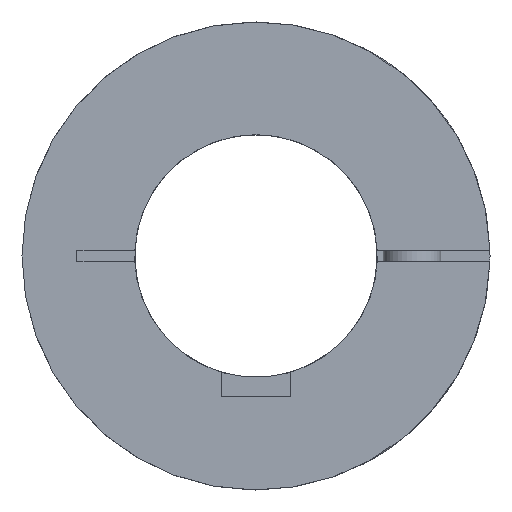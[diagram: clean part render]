
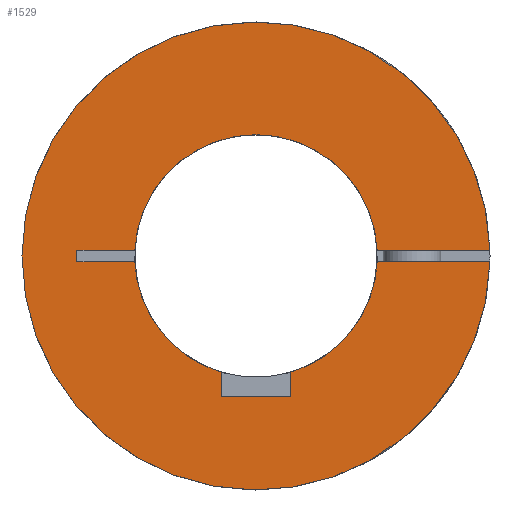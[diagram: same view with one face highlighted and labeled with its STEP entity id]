
A CAD part, left-side view. The second image highlights one B-rep face of the part: STEP entity #1529.
In plain terms, the highlighted planar face has unit normal (-1, 0, 0).
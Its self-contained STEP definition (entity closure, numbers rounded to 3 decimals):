
#41=PLANE('',#1742);
#139=LINE('',#2712,#246);
#142=LINE('',#2718,#249);
#143=LINE('',#2720,#250);
#155=LINE('',#2742,#262);
#159=LINE('',#2748,#266);
#170=LINE('',#2769,#277);
#171=LINE('',#2772,#278);
#194=LINE('',#2819,#301);
#246=VECTOR('',#2079,1.);
#249=VECTOR('',#2084,1.);
#250=VECTOR('',#2087,1.);
#262=VECTOR('',#2107,21.553);
#266=VECTOR('',#2115,31.04);
#277=VECTOR('',#2136,31.04);
#278=VECTOR('',#2139,21.553);
#301=VECTOR('',#2186,2.);
#393=FACE_OUTER_BOUND('',#491,.T.);
#491=EDGE_LOOP('',(#1312,#1313,#1314,#1315,#1316,#1317,#1318,#1319,#1320,
#1321,#1322,#1323));
#626=CIRCLE('',#1689,40.5);
#641=CIRCLE('',#1710,21.);
#643=CIRCLE('',#1712,21.);
#644=CIRCLE('',#1714,21.);
#726=VERTEX_POINT('',#2588);
#727=VERTEX_POINT('',#2590);
#751=VERTEX_POINT('',#2685);
#752=VERTEX_POINT('',#2687);
#755=VERTEX_POINT('',#2693);
#756=VERTEX_POINT('',#2695);
#757=VERTEX_POINT('',#2699);
#758=VERTEX_POINT('',#2700);
#762=VERTEX_POINT('',#2710);
#764=VERTEX_POINT('',#2716);
#770=VERTEX_POINT('',#2740);
#776=VERTEX_POINT('',#2771);
#904=EDGE_CURVE('',#727,#726,#626,.T.);
#932=EDGE_CURVE('',#752,#751,#641,.T.);
#936=EDGE_CURVE('',#756,#755,#643,.T.);
#938=EDGE_CURVE('',#757,#758,#644,.T.);
#944=EDGE_CURVE('',#755,#762,#139,.T.);
#947=EDGE_CURVE('',#762,#764,#142,.T.);
#948=EDGE_CURVE('',#764,#752,#143,.T.);
#960=EDGE_CURVE('',#770,#751,#155,.T.);
#964=EDGE_CURVE('',#758,#727,#159,.T.);
#975=EDGE_CURVE('',#726,#756,#170,.T.);
#976=EDGE_CURVE('',#776,#757,#171,.T.);
#999=EDGE_CURVE('',#776,#770,#194,.T.);
#1312=ORIENTED_EDGE('',*,*,#932,.T.);
#1313=ORIENTED_EDGE('',*,*,#960,.F.);
#1314=ORIENTED_EDGE('',*,*,#999,.F.);
#1315=ORIENTED_EDGE('',*,*,#976,.T.);
#1316=ORIENTED_EDGE('',*,*,#938,.T.);
#1317=ORIENTED_EDGE('',*,*,#964,.T.);
#1318=ORIENTED_EDGE('',*,*,#904,.T.);
#1319=ORIENTED_EDGE('',*,*,#975,.T.);
#1320=ORIENTED_EDGE('',*,*,#936,.T.);
#1321=ORIENTED_EDGE('',*,*,#944,.T.);
#1322=ORIENTED_EDGE('',*,*,#947,.T.);
#1323=ORIENTED_EDGE('',*,*,#948,.T.);
#1529=ADVANCED_FACE('',(#393),#41,.T.);
#1689=AXIS2_PLACEMENT_3D('',#2591,#2005,#2006);
#1710=AXIS2_PLACEMENT_3D('',#2688,#2058,#2059);
#1712=AXIS2_PLACEMENT_3D('',#2696,#2064,#2065);
#1714=AXIS2_PLACEMENT_3D('',#2701,#2069,#2070);
#1742=AXIS2_PLACEMENT_3D('',#2818,#2184,#2185);
#2005=DIRECTION('center_axis',(-1.,0.,0.));
#2006=DIRECTION('ref_axis',(0.,1.,0.));
#2058=DIRECTION('center_axis',(1.,0.,0.));
#2059=DIRECTION('ref_axis',(0.,0.,-1.));
#2064=DIRECTION('center_axis',(1.,0.,0.));
#2065=DIRECTION('ref_axis',(0.,0.,-1.));
#2069=DIRECTION('center_axis',(1.,0.,0.));
#2070=DIRECTION('ref_axis',(0.,0.,-1.));
#2079=DIRECTION('',(0.,0.,-1.));
#2084=DIRECTION('',(0.,1.,0.));
#2087=DIRECTION('',(0.,0.,1.));
#2107=DIRECTION('',(0.,-1.,0.));
#2115=DIRECTION('',(0.,-1.,0.));
#2136=DIRECTION('',(0.,1.,0.));
#2139=DIRECTION('',(0.,-1.,0.));
#2184=DIRECTION('center_axis',(-1.,0.,0.));
#2185=DIRECTION('ref_axis',(0.,-1.,0.));
#2186=DIRECTION('',(0.,0.,-1.));
#2588=CARTESIAN_POINT('',(0.,-40.488,-1.));
#2590=CARTESIAN_POINT('',(0.,-40.488,1.));
#2591=CARTESIAN_POINT('Origin',(0.,0.,0.));
#2685=CARTESIAN_POINT('',(0.,20.976,-1.));
#2687=CARTESIAN_POINT('',(0.,6.,-20.125));
#2688=CARTESIAN_POINT('Origin',(0.,0.,0.));
#2693=CARTESIAN_POINT('',(0.,-6.,-20.125));
#2695=CARTESIAN_POINT('',(0.,-20.976,-1.));
#2696=CARTESIAN_POINT('Origin',(0.,0.,0.));
#2699=CARTESIAN_POINT('',(0.,20.976,1.));
#2700=CARTESIAN_POINT('',(0.,-20.976,1.));
#2701=CARTESIAN_POINT('Origin',(0.,0.,0.));
#2710=CARTESIAN_POINT('',(0.,-6.,-24.3));
#2712=CARTESIAN_POINT('',(0.,-6.,-10.825));
#2716=CARTESIAN_POINT('',(0.,6.,-24.3));
#2718=CARTESIAN_POINT('',(0.,0.,-24.3));
#2720=CARTESIAN_POINT('',(0.,6.,-10.825));
#2740=CARTESIAN_POINT('',(0.,31.,-1.));
#2742=CARTESIAN_POINT('',(0.,31.,-1.));
#2748=CARTESIAN_POINT('',(0.,-9.447,1.));
#2769=CARTESIAN_POINT('',(0.,-40.488,-1.));
#2771=CARTESIAN_POINT('',(0.,31.,1.));
#2772=CARTESIAN_POINT('',(0.,31.,1.));
#2818=CARTESIAN_POINT('Origin',(0.,0.,-9.5));
#2819=CARTESIAN_POINT('',(0.,31.,1.));
